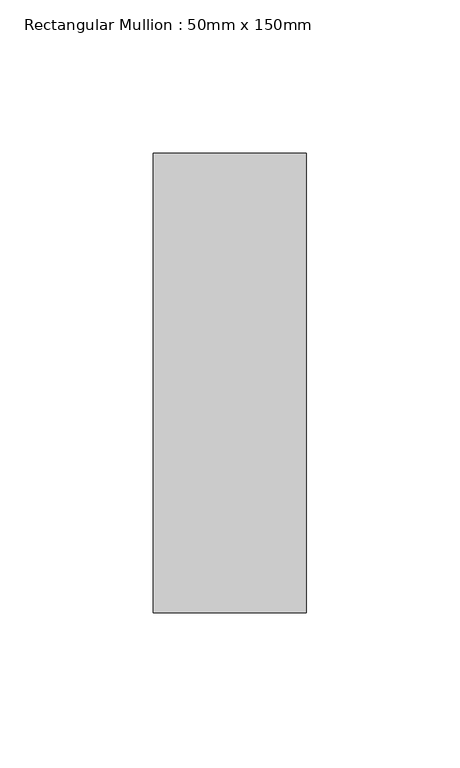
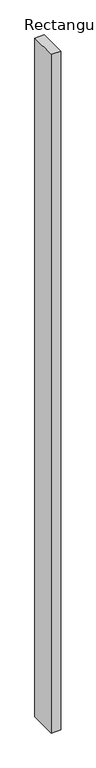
"""IFC4 building model written with IfcOpenShell, lengths in millimetres: member geometry, Rectangular Mullion : 50mm x 150mm."""

from ifc_helpers import new_model, si_unit, frame, origin, place, context, project, spatial, polyline, outline, extrude, source, transform, mapped, element, save


def rectangular_mullion_50mm_x_150mm_62159ae8(model_context):
    return source(origin(), model_context, "Body", "SweptSolid", [
        extrude(outline(polyline([(25.0, 75.0), (25.0, -75.0), (-25.0, -75.0), (-25.0, 75.0), (25.0, 75.0)])), frame((0.0, 0.0, -3800.0), z_axis=(0.0, 0.0, 1.0), x_axis=(1.0, 0.0, 0.0)), (0.0, 0.0, 1.0), 3800.0),
    ])


if __name__ == "__main__":
    model = new_model("IFC4")
    model_context = context("Model", 3, world=origin())
    ifc_project = project(units=[si_unit("LENGTHUNIT", "METRE", prefix="MILLI")], contexts=[model_context])
    site = spatial("IfcSite", under=ifc_project)
    building = spatial("IfcBuilding", under=site)
    placement = place(None, origin())
    rectangular_mullion_50mm_x_150mm_shape = rectangular_mullion_50mm_x_150mm_62159ae8(model_context)
    element("IfcMember", 1, ObjectType="Rectangular Mullion : 50mm x 150mm", at=placement, inside=building, context=model_context, shape_type="MappedRepresentation", body=[
        mapped(rectangular_mullion_50mm_x_150mm_shape, transform((0.0, 0.0, 0.0), x_axis=(1.0, 0.0, 0.0), y_axis=(0.0, 1.0, 0.0), z_axis=(0.0, 0.0, 1.0))),
    ])
    save(model, "model.ifc")
